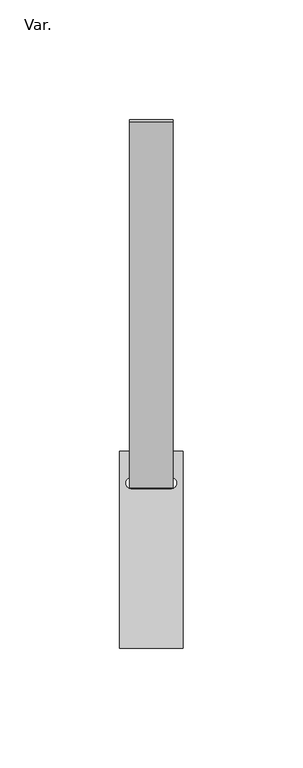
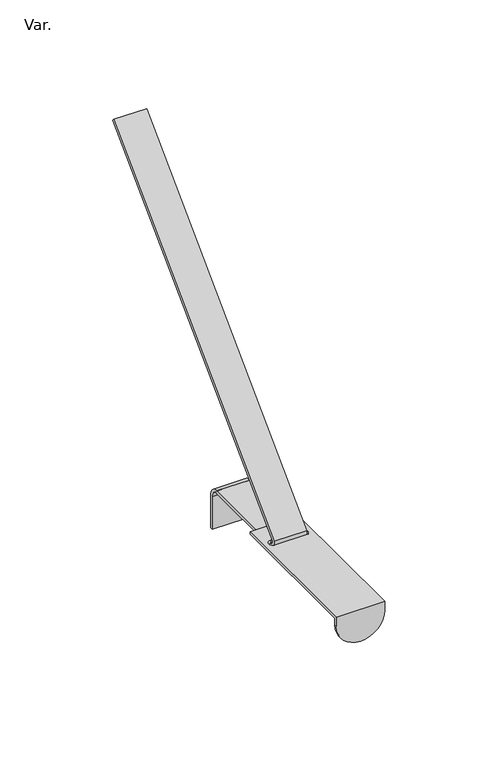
"""IFC4 building model written with IfcOpenShell, lengths in millimetres: pipe fitting geometry, PavcoWavin_UnionesDeTuberia_ZCanal Raingo_Soporte Metálico_NoUsarUnion : Var.."""

import ifcopenshell
import ifcopenshell.guid

model = None  # the IFC model being written
_history = None  # IfcOwnerHistory: only IFC2X3 demands one
_inside = {}  # id of a spatial element -> (the spatial element, [elements in it])
_under = {}  # id of a project, library or spatial element -> (it, [spatial elements below it])
_declared = {}  # id of a project -> (the project, [libraries it declares])
_typed = {}  # id of a type object -> (the type object, [elements of that type])
_made_of = {}  # id of a material, layer set ... -> (it, [elements and type objects made of it])


def new_model(schema):
    """Start an empty IFC model of exactly this schema.

    Asked for "IFC4X3", IfcOpenShell would pick the latest addendum, in which some entities
    have other attributes; the version numbers below select the first issue.
    IFC2X3 requires an IfcOwnerHistory on every rooted entity: one is made here for all.
    """
    global model, _history
    if schema == "IFC4X3":
        model = ifcopenshell.file(schema_version=(4, 3, 0, 0))
    else:
        model = ifcopenshell.file(schema=schema)
    _inside.clear()
    _under.clear()
    _declared.clear()
    _typed.clear()
    _made_of.clear()
    _history = None
    if model.schema == "IFC2X3":
        org = make("IfcOrganization", Name="unknown")
        user = make(
            "IfcPersonAndOrganization",
            ThePerson=make("IfcPerson", FamilyName="unknown"),
            TheOrganization=org,
        )
        app = make(
            "IfcApplication",
            ApplicationDeveloper=org,
            Version="unknown",
            ApplicationFullName="unknown",
            ApplicationIdentifier="unknown",
        )
        _history = make(
            "IfcOwnerHistory",
            OwningUser=user,
            OwningApplication=app,
            ChangeAction="ADDED",
            CreationDate=0,
        )
    return model


def make(cls, **values):
    """One entity of the class cls with the attributes given. An attribute that is None is left unset."""
    return model.create_entity(
        cls, **{name: value for name, value in values.items() if value is not None}
    )


def rooted(cls, **values):
    """An entity with a GlobalId (a new one), such as an element, a storey or a relation."""
    return make(cls, GlobalId=ifcopenshell.guid.new(), OwnerHistory=_history, **values)


def si_unit(unit_type, name, prefix=None):
    """IfcSIUnit, for example si_unit("LENGTHUNIT", "METRE", prefix="MILLI")."""
    return make("IfcSIUnit", UnitType=unit_type, Prefix=prefix, Name=name)


def assignment(units):
    """IfcUnitAssignment: the units of a project."""
    return None if units is None else make("IfcUnitAssignment", Units=units)


def point(xyz):
    """IfcCartesianPoint."""
    return None if xyz is None else make("IfcCartesianPoint", Coordinates=xyz)


def direction(xyz):
    """IfcDirection."""
    return None if xyz is None else make("IfcDirection", DirectionRatios=xyz)


def frame(location, z_axis=None, x_axis=None):
    """IfcAxis2Placement3D, a coordinate frame: its origin and axes. An axis left out is left unset."""
    return make(
        "IfcAxis2Placement3D",
        Location=point(location),
        Axis=direction(z_axis),
        RefDirection=direction(x_axis),
    )


def frame_2d(location, x_axis=None):
    """IfcAxis2Placement2D, a coordinate frame in the plane: its origin and x axis."""
    return make(
        "IfcAxis2Placement2D", Location=point(location), RefDirection=direction(x_axis)
    )


def origin():
    """The frame at (0, 0, 0) with its axes left unset."""
    return frame((0.0, 0.0, 0.0))


def place(relative_to, where):
    """IfcLocalPlacement: puts the frame where relative to a parent placement (None: the world)."""
    return make(
        "IfcLocalPlacement", PlacementRelTo=relative_to, RelativePlacement=where
    )


def context(
    kind, dimensions, precision=None, world=None, true_north=None, identifier=None
):
    """IfcGeometricRepresentationContext, for example the 3D "Model" context."""
    return make(
        "IfcGeometricRepresentationContext",
        ContextIdentifier=identifier,
        ContextType=kind,
        CoordinateSpaceDimension=dimensions,
        Precision=precision,
        WorldCoordinateSystem=world,
        TrueNorth=true_north,
    )


def project(units=None, contexts=None):
    """IfcProject with its units and contexts."""
    return rooted(
        "IfcProject",
        Name="project",
        RepresentationContexts=contexts,
        UnitsInContext=assignment(units),
    )


def spatial(cls, under=None, at=None, **own):
    """A site, building, storey or space (cls), placed at a placement, below another one or the project."""
    s = rooted(cls, ObjectPlacement=at, **own)
    if under is not None:
        _under.setdefault(under.id(), (under, []))[1].append(s)
    return s


def polyline(points):
    """IfcPolyline through the points."""
    return make("IfcPolyline", Points=[point(p) for p in points])


def circle_curve(where, radius):
    """IfcCircle in the frame where."""
    return make("IfcCircle", Position=where, Radius=radius)


def trimmed(basis, trim1, trim2, sense, master):
    """IfcTrimmedCurve: the piece of a basis curve between two trims."""
    return make(
        "IfcTrimmedCurve",
        BasisCurve=basis,
        Trim1=trim1,
        Trim2=trim2,
        SenseAgreement=sense,
        MasterRepresentation=master,
    )


def segment(curve, same_sense, transition):
    """IfcCompositeCurveSegment."""
    return make(
        "IfcCompositeCurveSegment",
        Transition=transition,
        SameSense=same_sense,
        ParentCurve=curve,
    )


def composite_curve(segments, self_intersect=None):
    """IfcCompositeCurve: segments joined end to end."""
    return make("IfcCompositeCurve", Segments=segments, SelfIntersect=self_intersect)


def outline(outer, holes=None, kind="AREA"):
    """IfcArbitraryClosedProfileDef: a profile drawn as a closed curve; with holes, ...WithVoids."""
    if holes is None:
        return make("IfcArbitraryClosedProfileDef", ProfileType=kind, OuterCurve=outer)
    return make(
        "IfcArbitraryProfileDefWithVoids",
        ProfileType=kind,
        OuterCurve=outer,
        InnerCurves=holes,
    )


def extrude(swept, where, along, depth):
    """IfcExtrudedAreaSolid: the profile swept, set in the frame where, extruded along a direction by depth."""
    return make(
        "IfcExtrudedAreaSolid",
        SweptArea=swept,
        Position=where,
        ExtrudedDirection=direction(along),
        Depth=depth,
    )


def shape(context_of_items, identifier, shape_type, items):
    """IfcShapeRepresentation: the items that make up one representation, for example the "Body"."""
    return make(
        "IfcShapeRepresentation",
        ContextOfItems=context_of_items,
        RepresentationIdentifier=identifier,
        RepresentationType=shape_type,
        Items=items,
    )


def source(mapping_origin, context_of_items, identifier, shape_type, items):
    """IfcRepresentationMap: a shape defined once, which mapped items show again and again."""
    return make(
        "IfcRepresentationMap",
        MappingOrigin=mapping_origin,
        MappedRepresentation=shape(context_of_items, identifier, shape_type, items),
    )


def transform(
    local_origin,
    x_axis=None,
    y_axis=None,
    z_axis=None,
    scale=None,
    scale2=None,
    scale3=None,
    uniform=True,
):
    """IfcCartesianTransformationOperator3D, or its non-uniform kind. x_axis, y_axis, z_axis: its Axis1, 2, 3."""
    if uniform:
        return make(
            "IfcCartesianTransformationOperator3D",
            Axis1=direction(x_axis),
            Axis2=direction(y_axis),
            LocalOrigin=point(local_origin),
            Scale=scale,
            Axis3=direction(z_axis),
        )
    return make(
        "IfcCartesianTransformationOperator3DnonUniform",
        Axis1=direction(x_axis),
        Axis2=direction(y_axis),
        LocalOrigin=point(local_origin),
        Scale=scale,
        Axis3=direction(z_axis),
        Scale2=scale2,
        Scale3=scale3,
    )


def mapped(mapping_source, mapping_target):
    """IfcMappedItem: shows the shape of a source again, moved by a transform."""
    return make(
        "IfcMappedItem", MappingSource=mapping_source, MappingTarget=mapping_target
    )


def made_of(thing, what):
    """Note that an element or type object is made of a material, layer set ...; save() writes the relation."""
    if what is not None:
        _made_of.setdefault(what.id(), (what, []))[1].append(thing)
    return thing


def element(
    cls,
    number,
    at=None,
    inside=None,
    cuts=None,
    type_object=None,
    material=None,
    context=None,
    identifier="Body",
    shape_type=None,
    held_by="IfcProductDefinitionShape",
    body=None,
    shapes=None,
    **own,
):
    """One element of the class cls, such as IfcWall. Its Tag is "e" and its number.

    at: its placement. inside: the storey or other place that contains it. cuts: it is an
    opening in that element (IfcRelVoidsElement). A single representation is given by context,
    identifier, shape_type and body (its items); several are given by shapes. held_by: the class
    of the entity that holds the representations. save() writes the other relations.
    """
    e = rooted(cls, Tag="e%d" % number, ObjectPlacement=at, **own)
    if body is not None:
        shapes = [shape(context, identifier, shape_type, body)]
    if shapes is not None:
        e.Representation = make(held_by, Representations=shapes)
    if inside is not None:
        _inside.setdefault(inside.id(), (inside, []))[1].append(e)
    if cuts is not None:
        rooted(
            "IfcRelVoidsElement", RelatingBuildingElement=cuts, RelatedOpeningElement=e
        )
    if type_object is not None:
        _typed.setdefault(type_object.id(), (type_object, []))[1].append(e)
    return made_of(e, material)


def aggregate(whole, parts):
    """IfcRelAggregates: a whole, such as a stair, and the parts it consists of."""
    return rooted("IfcRelAggregates", RelatingObject=whole, RelatedObjects=parts)


def save(model, path):
    """Write the relations noted so far, then the file.

    IfcRelAggregates (storeys below a building ...), IfcRelContainedInSpatialStructure (elements
    in a storey), IfcRelDefinesByType, IfcRelAssociatesMaterial and IfcRelDeclares: one each for
    every whole, place, type object, material and project.
    """
    for whole, parts in _under.values():
        aggregate(whole, parts)
    for where, things in _inside.values():
        rooted(
            "IfcRelContainedInSpatialStructure",
            RelatedElements=things,
            RelatingStructure=where,
        )
    for kind, things in _typed.values():
        rooted("IfcRelDefinesByType", RelatedObjects=things, RelatingType=kind)
    for what, things in _made_of.values():
        rooted("IfcRelAssociatesMaterial", RelatedObjects=things, RelatingMaterial=what)
    for by, libraries in _declared.values():
        rooted("IfcRelDeclares", RelatingContext=by, RelatedDefinitions=libraries)
    model.write(path)


def plane_surface(at):
    """IfcPlane: the flat surface through the origin of the frame at, square to its z axis."""
    return make("IfcPlane", Position=at)


def cylinder_surface(at, radius):
    """IfcCylindricalSurface: all points at the distance radius from the z axis of the frame at."""
    return make("IfcCylindricalSurface", Position=at, Radius=radius)


def revolved_surface(curve, axis_point, axis_direction):
    """IfcSurfaceOfRevolution: the curve turned about the line through axis_point along axis_direction."""
    return make(
        "IfcSurfaceOfRevolution",
        SweptCurve=make("IfcArbitraryOpenProfileDef", ProfileType="CURVE", Curve=curve),
        AxisPosition=make("IfcAxis1Placement", Location=point(axis_point), Axis=direction(axis_direction)),
    )


def advanced_brep(points, edges, surfaces, faces):
    """IfcAdvancedBrep: a solid bounded by faces that lie on surfaces and meet in shared edges.

    An edge is (start, end): straight between two places in points (the first is 0);
    or (start, end, curve); or (start, end, curve, False) where it runs against its curve.
    A face is (place in surfaces, loops), or (place, loops, False) where it looks against
    its surface's normal. A loop lists edges by number (the first is 1), with a minus sign
    where the edge is run from its end to its start. The first loop is the outer one.
    """
    corners = [point(p) for p in points]
    vertices = [make("IfcVertexPoint", VertexGeometry=c) for c in corners]
    made = []
    for start, end, *more in edges:
        made.append(
            make(
                "IfcEdgeCurve",
                EdgeStart=vertices[start],
                EdgeEnd=vertices[end],
                EdgeGeometry=more[0] if more else make("IfcPolyline", Points=[corners[start], corners[end]]),
                SameSense=more[1] if len(more) > 1 else True,
            )
        )
    hull = []
    for where, loops, *sense in faces:
        bounds = []
        for j, loop in enumerate(loops):
            ring = [make("IfcOrientedEdge", EdgeElement=made[abs(k) - 1], Orientation=k > 0) for k in loop]
            bounds.append(
                make(
                    "IfcFaceOuterBound" if j == 0 else "IfcFaceBound",
                    Bound=make("IfcEdgeLoop", EdgeList=ring),
                    Orientation=True,
                )
            )
        hull.append(make("IfcAdvancedFace", Bounds=bounds, FaceSurface=surfaces[where], SameSense=sense[0] if sense else True))
    return make("IfcAdvancedBrep", Outer=make("IfcClosedShell", CfsFaces=hull))


def var_05ff5e77(model_context):
    return source(origin(), model_context, "Body", "SolidModel", [
        advanced_brep(
        [(13.25, -61.0012209, -29.2720965), (13.25, -61.0012209, -34.5220965), (13.25, -59.5012209, -34.5220965), (13.25, -59.5012209, -30.7720965), (13.25, 21.1487791, -30.7720965), (13.25, 21.1487791, -29.2720965), (-13.25, -59.5012209, -30.7720965), (-13.25, -59.5012209, -34.5220965), (-13.25, -61.0012209, -34.5220965), (-13.25, -61.0012209, -29.2720965), (-13.25, 21.1487791, -29.2720965), (-13.25, 21.1487791, -30.7720965), (-8.37, 5.6487791, -29.2720965), (-8.37, 10.1487791, -29.2720965), (8.37, 10.1487791, -29.2720965), (8.37, 5.6487791, -29.2720965), (8.37, 5.6487791, -30.7720965), (8.37, 10.1487791, -30.7720965), (-8.37, 10.1487791, -30.7720965), (-8.37, 5.6487791, -30.7720965), (0.0, -59.5012209, -47.7720965), (0.0, -61.0012209, -47.7720965)],
        [
            (0, 1),
            (1, 2),
            (2, 3),
            (3, 4),
            (4, 5),
            (5, 0),
            (6, 7),
            (7, 8),
            (8, 9),
            (9, 10),
            (10, 11),
            (11, 6),
            (5, 10),
            (9, 0),
            (12, 13, circle_curve(frame((-8.37, 7.8987791, -29.2720965), z_axis=(0.0, 0.0, -1.0), x_axis=(-1.0, 0.0, 0.0)), 2.25)),
            (13, 14),
            (14, 15, circle_curve(frame((8.37, 7.8987791, -29.2720965), z_axis=(0.0, 0.0, -1.0), x_axis=(1.0, 0.0, 0.0)), 2.25)),
            (15, 12),
            (4, 11),
            (3, 6),
            (16, 17, circle_curve(frame((8.37, 7.8987791, -30.7720965), z_axis=(0.0, 0.0, 1.0), x_axis=(1.0, 0.0, 0.0)), 2.25)),
            (17, 18),
            (18, 19, circle_curve(frame((-8.37, 7.8987791, -30.7720965), z_axis=(0.0, 0.0, 1.0), x_axis=(-1.0, 0.0, 0.0)), 2.25)),
            (19, 16),
            (2, 20, circle_curve(frame((0.0, -59.5012209, -34.5220965), z_axis=(0.0, 1.0, 0.0), x_axis=(-1.0, 0.0, 0.0)), 13.25)),
            (20, 7, circle_curve(frame((0.0, -59.5012209, -34.5220965), z_axis=(0.0, 1.0, 0.0), x_axis=(1.0, 0.0, 0.0)), 13.25)),
            (8, 21, circle_curve(frame((0.0, -61.0012209, -34.5220965), z_axis=(0.0, -1.0, 0.0), x_axis=(1.0, 0.0, 0.0)), 13.25)),
            (21, 1, circle_curve(frame((0.0, -61.0012209, -34.5220965), z_axis=(0.0, -1.0, 0.0), x_axis=(-1.0, 0.0, 0.0)), 13.25)),
            (21, 20),
            (15, 16),
            (19, 12),
            (18, 13),
            (17, 14),
        ],
        [
            plane_surface(frame((13.25, 21.1487791, -29.2720965), z_axis=(1.0, 0.0, 0.0), x_axis=(0.0, 1.0, 0.0))),
            plane_surface(frame((-13.25, 21.1487791, -29.2720965), z_axis=(-1.0, 0.0, 0.0), x_axis=(0.0, -1.0, 0.0))),
            plane_surface(frame((13.25, -61.0012209, -29.2720965), z_axis=(0.0, 0.0, 1.0), x_axis=(-1.0, 0.0, 0.0))),
            plane_surface(frame((13.25, 21.1487791, -29.2720965), z_axis=(0.0, 1.0, 0.0), x_axis=(-1.0, 0.0, 0.0))),
            plane_surface(frame((13.25, 21.1487791, -30.7720965), z_axis=(0.0, 0.0, -1.0), x_axis=(-1.0, 0.0, 0.0))),
            plane_surface(frame((13.25, -59.5012209, -30.7720965), z_axis=(0.0, 1.0, 0.0), x_axis=(-1.0, 0.0, 0.0))),
            plane_surface(frame((13.25, -61.0012209, -47.7720965), z_axis=(0.0, -1.0, 0.0), x_axis=(-1.0, 0.0, 0.0))),
            cylinder_surface(frame((0.0, -61.0012209, -34.5220965), z_axis=(0.0, -1.0, 0.0), x_axis=(-1.0, 0.0, 0.0)), 13.25),
            cylinder_surface(frame((0.0, -61.0012209, -34.5220965), z_axis=(0.0, -1.0, 0.0), x_axis=(1.0, 0.0, 0.0)), 13.25),
            plane_surface(frame((8.37, 5.6487791, -29.2720965), z_axis=(0.0, 1.0, 0.0), x_axis=(0.0, 0.0, -1.0))),
            revolved_surface(polyline([(-10.62, 7.8987791, -29.2720965), (-10.62, 7.8987791, -30.7720965)]), (-8.37, 7.8987791, -30.7720965), (0.0, 0.0, 1.0)),
            plane_surface(frame((-8.37, 10.1487791, -29.2720965), z_axis=(0.0, -1.0, 0.0), x_axis=(0.0, 0.0, -1.0))),
            revolved_surface(polyline([(10.62, 7.8987791, -29.2720965), (10.62, 7.8987791, -30.7720965)]), (8.37, 7.8987791, -30.7720965), (0.0, 0.0, 1.0)),
        ],
        [
            (0, [[1, 2, 3, 4, 5, 6]]),
            (1, [[7, 8, 9, 10, 11, 12]]),
            (2, [[13, -10, 14, -6], [15, 16, 17, 18]]),
            (3, [[19, -11, -13, -5]]),
            (4, [[20, -12, -19, -4], [21, 22, 23, 24]]),
            (5, [[-3, 25, 26, -7, -20]]),
            (6, [[-9, 27, 28, -1, -14]]),
            (7, [[-28, 29, -25, -2]]),
            (8, [[-26, -29, -27, -8]]),
            (9, [[-18, 30, -24, 31]]),
            (10, [[-23, 32, -15, -31]]),
            (11, [[-22, 33, -16, -32]]),
            (12, [[-17, -33, -21, -30]]),
        ],
    ),
        extrude(outline(composite_curve([segment(trimmed(circle_curve(frame_2d((60.1987791, -36.7720965)), 6.0), [point((60.1987791, -30.7720965))], [point((66.1987791, -36.7720965))], False, "CARTESIAN"), True, "CONTINUOUS"), segment(polyline([(66.1987791, -36.7720965), (66.1987791, -55.8720965), (64.6987791, -55.8720965), (64.6987791, -36.7720965)]), True, "CONTINUOUS"), segment(trimmed(circle_curve(frame_2d((60.1987791, -36.7720965)), 4.5), [point((64.6987791, -36.7720965))], [point((60.1987791, -32.2720965))], True, "CARTESIAN"), True, "CONTINUOUS"), segment(polyline([(60.1987791, -32.2720965), (10.1487791, -32.2720965)]), True, "CONTINUOUS"), segment(trimmed(circle_curve(frame_2d((10.1487791, -27.7720965)), 4.5), [point((10.1487791, -32.2720965))], [point((5.6991987, -27.1003565))], False, "CARTESIAN"), True, "CONTINUOUS"), segment(polyline([(5.6991987, -27.1003565), (158.4696302, 125.670075), (159.5302904, 124.6094149), (7.1487791, -27.7720965)]), True, "CONTINUOUS"), segment(trimmed(circle_curve(frame_2d((10.1487791, -27.7720965)), 3.0), [point((7.1487791, -27.7720965))], [point((10.1487791, -30.7720965))], True, "CARTESIAN"), True, "CONTINUOUS"), segment(polyline([(10.1487791, -30.7720965), (60.1987791, -30.7720965)]), True, "CONTINUOUS")], self_intersect=False)), frame((-9.0, 0.0, 0.0), z_axis=(1.0, 0.0, 0.0), x_axis=(0.0, 1.0, 0.0)), (0.0, 0.0, 1.0), 18.0),
    ])


if __name__ == "__main__":
    model = new_model("IFC4")
    model_context = context("Model", 3, world=origin())
    ifc_project = project(units=[si_unit("LENGTHUNIT", "METRE", prefix="MILLI")], contexts=[model_context])
    site = spatial("IfcSite", under=ifc_project)
    building = spatial("IfcBuilding", under=site)
    placement = place(None, origin())
    var_shape = var_05ff5e77(model_context)
    element("IfcPipeFitting", 1, ObjectType="PavcoWavin_UnionesDeTuberia_ZCanal Raingo_Soporte Metálico_NoUsarUnion : Var.", at=placement, inside=building, context=model_context, shape_type="MappedRepresentation", body=[
        mapped(var_shape, transform((0.0, 0.0, 0.0), x_axis=(1.0, 0.0, 0.0), y_axis=(0.0, 1.0, 0.0), z_axis=(0.0, 0.0, 1.0))),
    ])
    save(model, "model.ifc")
